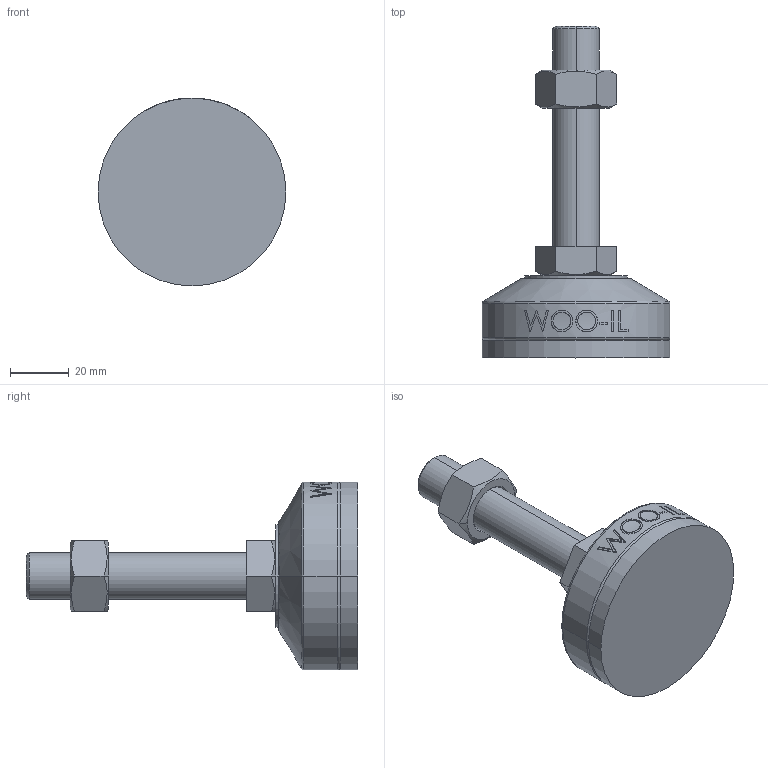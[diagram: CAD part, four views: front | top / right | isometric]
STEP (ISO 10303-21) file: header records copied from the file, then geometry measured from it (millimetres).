
FILE_DESCRIPTION (( 'STEP AP214' ), '1' );
FILE_NAME ('MFZR64-M16-75.step', '2021-03-29T06:56:33', ( '' ), ( '' ), 'SwSTEP 2.0', 'SolidWorks 2019', '' );
FILE_SCHEMA (( 'AUTOMOTIVE_DESIGN' ));
Length unit declared in the file: millimetre
Products named in the file (2): MFZR64-M16-75
Bounding box: 64 x 113 x 64 mm (x, y, z)
Volume: 102203.7 mm3; surface area: 24800.1 mm2
Topology: 4 solids, 4 shells, 103 faces, 235 edges, 150 vertices
Faces by surface type: plane 49, cylinder 18, bspline 16, cone 14, torus 6
Entity records: 4435 total; most frequent: CARTESIAN_POINT 2162, ORIENTED_EDGE 470, DIRECTION 417, EDGE_CURVE 235, AXIS2_PLACEMENT_3D 159, VERTEX_POINT 150, EDGE_LOOP 115, FACE_OUTER_BOUND 103
